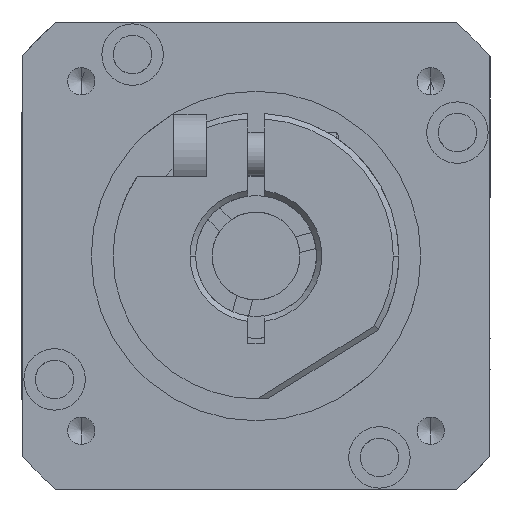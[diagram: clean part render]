
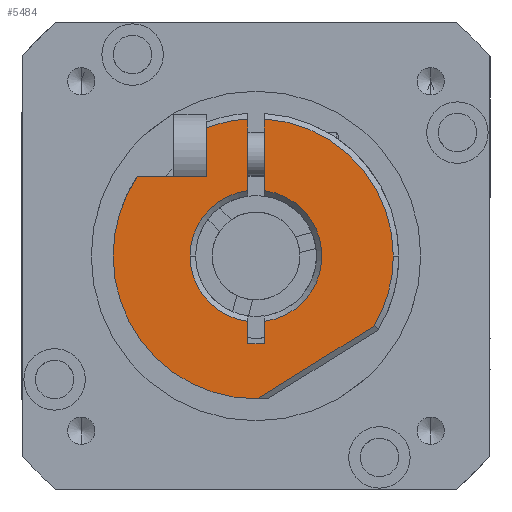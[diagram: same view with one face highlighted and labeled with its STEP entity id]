
A CAD part, left-side view. The second image highlights one B-rep face of the part: STEP entity #5484.
In plain terms, the highlighted planar face has unit normal (-1, 0, 0) as drawn and (0, -1, 0) by its records, which use the part's own axes.
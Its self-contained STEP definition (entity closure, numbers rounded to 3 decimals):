
#60 = AXIS2_PLACEMENT_3D ( 'NONE', #9894, #6820, #1125 ) ;
#64 = DIRECTION ( 'NONE',  ( 0., 1., 0. ) ) ;
#76 = CARTESIAN_POINT ( 'NONE',  ( 5.953, -4., -0.75 ) ) ;
#129 = AXIS2_PLACEMENT_3D ( 'NONE', #10169, #2962, #701 ) ;
#288 = ORIENTED_EDGE ( 'NONE', *, *, #1141, .T. ) ;
#450 = EDGE_CURVE ( 'NONE', #3196, #1188, #6763, .T. ) ;
#535 = VECTOR ( 'NONE', #4821, 1000. ) ;
#542 = DIRECTION ( 'NONE',  ( 0., 0., -1. ) ) ;
#701 = DIRECTION ( 'NONE',  ( -1., 0., 0. ) ) ;
#702 = CARTESIAN_POINT ( 'NONE',  ( 0., -4., -6. ) ) ;
#799 = ORIENTED_EDGE ( 'NONE', *, *, #9566, .T. ) ;
#832 = CARTESIAN_POINT ( 'NONE',  ( 8., -4., 0.75 ) ) ;
#838 = CARTESIAN_POINT ( 'NONE',  ( 0., -4., 12.5 ) ) ;
#880 = CARTESIAN_POINT ( 'NONE',  ( -7.25, -4., -4.5 ) ) ;
#900 = CARTESIAN_POINT ( 'NONE',  ( -11.662, -4., -4.5 ) ) ;
#911 = DIRECTION ( 'NONE',  ( 0., 1., 0. ) ) ;
#929 = EDGE_CURVE ( 'NONE', #5095, #3767, #6363, .T. ) ;
#954 = DIRECTION ( 'NONE',  ( 0., 0., -1. ) ) ;
#977 = CARTESIAN_POINT ( 'NONE',  ( 0., -4., 0. ) ) ;
#1055 = EDGE_CURVE ( 'NONE', #5299, #4211, #2579, .T. ) ;
#1125 = DIRECTION ( 'NONE',  ( 0., 0., 1. ) ) ;
#1141 = EDGE_CURVE ( 'NONE', #3767, #8123, #8998, .T. ) ;
#1188 = VERTEX_POINT ( 'NONE', #900 ) ;
#1278 = VERTEX_POINT ( 'NONE', #1776 ) ;
#1362 = DIRECTION ( 'NONE',  ( -1., 0., 0. ) ) ;
#1549 = CARTESIAN_POINT ( 'NONE',  ( 0., -4., 0. ) ) ;
#1583 = ORIENTED_EDGE ( 'NONE', *, *, #8146, .T. ) ;
#1604 = VECTOR ( 'NONE', #1362, 1000. ) ;
#1776 = CARTESIAN_POINT ( 'NONE',  ( -12.477, -4., 0.75 ) ) ;
#1787 = DIRECTION ( 'NONE',  ( 0., 0., -1. ) ) ;
#2099 = VECTOR ( 'NONE', #10154, 1000. ) ;
#2172 = ORIENTED_EDGE ( 'NONE', *, *, #6648, .T. ) ;
#2228 = AXIS2_PLACEMENT_3D ( 'NONE', #7211, #64, #5549 ) ;
#2255 = ORIENTED_EDGE ( 'NONE', *, *, #2908, .T. ) ;
#2579 = LINE ( 'NONE', #10365, #5209 ) ;
#2606 = LINE ( 'NONE', #10422, #7627 ) ;
#2630 = CARTESIAN_POINT ( 'NONE',  ( -5.953, -4., 0.75 ) ) ;
#2708 = VERTEX_POINT ( 'NONE', #7157 ) ;
#2780 = CARTESIAN_POINT ( 'NONE',  ( 0., -4., 0. ) ) ;
#2803 = VERTEX_POINT ( 'NONE', #838 ) ;
#2808 = AXIS2_PLACEMENT_3D ( 'NONE', #1549, #7159, #10375 ) ;
#2908 = EDGE_CURVE ( 'NONE', #4211, #2708, #6702, .T. ) ;
#2962 = DIRECTION ( 'NONE',  ( 0., -1., 0. ) ) ;
#3012 = DIRECTION ( 'NONE',  ( -1., 0., 0. ) ) ;
#3078 = LINE ( 'NONE', #10142, #7244 ) ;
#3135 = DIRECTION ( 'NONE',  ( -0.53, 0., 0.848 ) ) ;
#3189 = EDGE_CURVE ( 'NONE', #1188, #5299, #4039, .T. ) ;
#3196 = VERTEX_POINT ( 'NONE', #9668 ) ;
#3246 = VECTOR ( 'NONE', #3012, 1000. ) ;
#3281 = CARTESIAN_POINT ( 'NONE',  ( 0., -4., 0. ) ) ;
#3322 = AXIS2_PLACEMENT_3D ( 'NONE', #977, #911, #1787 ) ;
#3767 = VERTEX_POINT ( 'NONE', #76 ) ;
#3768 = DIRECTION ( 'NONE',  ( 0., -1., 0. ) ) ;
#3931 = DIRECTION ( 'NONE',  ( 0., 0., -1. ) ) ;
#3949 = DIRECTION ( 'NONE',  ( 1., 0., 0. ) ) ;
#3956 = CIRCLE ( 'NONE', #2808, 12.5 ) ;
#4039 = LINE ( 'NONE', #4857, #535 ) ;
#4053 = VERTEX_POINT ( 'NONE', #7518 ) ;
#4071 = ORIENTED_EDGE ( 'NONE', *, *, #9075, .T. ) ;
#4164 = VERTEX_POINT ( 'NONE', #832 ) ;
#4185 = DIRECTION ( 'NONE',  ( 0., 1., 0. ) ) ;
#4211 = VERTEX_POINT ( 'NONE', #9708 ) ;
#4528 = CARTESIAN_POINT ( 'NONE',  ( 8., -4., -0.75 ) ) ;
#4784 = EDGE_CURVE ( 'NONE', #8123, #7508, #8919, .T. ) ;
#4821 = DIRECTION ( 'NONE',  ( 1., 0., 0. ) ) ;
#4857 = CARTESIAN_POINT ( 'NONE',  ( 5.5, -4., -4.5 ) ) ;
#4922 = EDGE_CURVE ( 'NONE', #2708, #7449, #8535, .T. ) ;
#4966 = EDGE_LOOP ( 'NONE', ( #2172, #8205, #9685, #288, #5198, #7115, #10241, #5475, #6602, #2255, #6354, #1583, #7944, #799, #4071, #6165 ) ) ;
#4997 = CIRCLE ( 'NONE', #3322, 6. ) ;
#5095 = VERTEX_POINT ( 'NONE', #7126 ) ;
#5198 = ORIENTED_EDGE ( 'NONE', *, *, #4784, .T. ) ;
#5209 = VECTOR ( 'NONE', #3931, 1000. ) ;
#5260 = CARTESIAN_POINT ( 'NONE',  ( 5.5, -4., -0.75 ) ) ;
#5299 = VERTEX_POINT ( 'NONE', #880 ) ;
#5356 = EDGE_CURVE ( 'NONE', #9787, #7267, #4997, .T. ) ;
#5452 = DIRECTION ( 'NONE',  ( 0., 0., -1. ) ) ;
#5475 = ORIENTED_EDGE ( 'NONE', *, *, #3189, .T. ) ;
#5484 = ADVANCED_FACE ( 'NONE', ( #8653 ), #10269, .T. ) ;
#5522 = DIRECTION ( 'NONE',  ( 0., -1., 0. ) ) ;
#5549 = DIRECTION ( 'NONE',  ( 0., 0., -1. ) ) ;
#5620 = AXIS2_PLACEMENT_3D ( 'NONE', #7084, #5522, #5452 ) ;
#5990 = LINE ( 'NONE', #4528, #2099 ) ;
#6017 = LINE ( 'NONE', #8764, #6914 ) ;
#6133 = DIRECTION ( 'NONE',  ( 1., 0., 0. ) ) ;
#6165 = ORIENTED_EDGE ( 'NONE', *, *, #5356, .T. ) ;
#6249 = CARTESIAN_POINT ( 'NONE',  ( 5.5, -4., -0.75 ) ) ;
#6287 = EDGE_CURVE ( 'NONE', #4053, #2803, #7153, .T. ) ;
#6354 = ORIENTED_EDGE ( 'NONE', *, *, #4922, .T. ) ;
#6363 = LINE ( 'NONE', #5260, #1604 ) ;
#6602 = ORIENTED_EDGE ( 'NONE', *, *, #1055, .T. ) ;
#6648 = EDGE_CURVE ( 'NONE', #7267, #4164, #6017, .T. ) ;
#6702 = CIRCLE ( 'NONE', #8023, 13. ) ;
#6763 = CIRCLE ( 'NONE', #129, 12.5 ) ;
#6820 = DIRECTION ( 'NONE',  ( 0., -1., 0. ) ) ;
#6828 = CARTESIAN_POINT ( 'NONE',  ( 5.953, -4., 0.75 ) ) ;
#6914 = VECTOR ( 'NONE', #3949, 1000. ) ;
#7084 = CARTESIAN_POINT ( 'NONE',  ( 5.5, -4., 0. ) ) ;
#7115 = ORIENTED_EDGE ( 'NONE', *, *, #7431, .T. ) ;
#7126 = CARTESIAN_POINT ( 'NONE',  ( 8., -4., -0.75 ) ) ;
#7153 = CIRCLE ( 'NONE', #60, 12.5 ) ;
#7157 = CARTESIAN_POINT ( 'NONE',  ( 0., -4., -13. ) ) ;
#7159 = DIRECTION ( 'NONE',  ( 0., -1., 0. ) ) ;
#7211 = CARTESIAN_POINT ( 'NONE',  ( 0., -4., 0. ) ) ;
#7244 = VECTOR ( 'NONE', #6133, 1000. ) ;
#7267 = VERTEX_POINT ( 'NONE', #6828 ) ;
#7369 = AXIS2_PLACEMENT_3D ( 'NONE', #3281, #4185, #954 ) ;
#7431 = EDGE_CURVE ( 'NONE', #7508, #3196, #9414, .T. ) ;
#7449 = VERTEX_POINT ( 'NONE', #8591 ) ;
#7508 = VERTEX_POINT ( 'NONE', #7860 ) ;
#7518 = CARTESIAN_POINT ( 'NONE',  ( 6.367, -4., 10.757 ) ) ;
#7627 = VECTOR ( 'NONE', #3135, 1000. ) ;
#7860 = CARTESIAN_POINT ( 'NONE',  ( -5.953, -4., -0.75 ) ) ;
#7944 = ORIENTED_EDGE ( 'NONE', *, *, #6287, .T. ) ;
#8023 = AXIS2_PLACEMENT_3D ( 'NONE', #10232, #3768, #542 ) ;
#8123 = VERTEX_POINT ( 'NONE', #702 ) ;
#8146 = EDGE_CURVE ( 'NONE', #7449, #4053, #2606, .T. ) ;
#8205 = ORIENTED_EDGE ( 'NONE', *, *, #8521, .T. ) ;
#8521 = EDGE_CURVE ( 'NONE', #4164, #5095, #5990, .T. ) ;
#8535 = CIRCLE ( 'NONE', #10057, 13. ) ;
#8591 = CARTESIAN_POINT ( 'NONE',  ( 12.999, -4., 0.144 ) ) ;
#8653 = FACE_OUTER_BOUND ( 'NONE', #4966, .T. ) ;
#8764 = CARTESIAN_POINT ( 'NONE',  ( 5.5, -4., 0.75 ) ) ;
#8919 = CIRCLE ( 'NONE', #7369, 6. ) ;
#8998 = CIRCLE ( 'NONE', #2228, 6. ) ;
#9075 = EDGE_CURVE ( 'NONE', #1278, #9787, #3078, .T. ) ;
#9299 = DIRECTION ( 'NONE',  ( 0., -1., 0. ) ) ;
#9414 = LINE ( 'NONE', #6249, #3246 ) ;
#9566 = EDGE_CURVE ( 'NONE', #2803, #1278, #3956, .T. ) ;
#9668 = CARTESIAN_POINT ( 'NONE',  ( -12.477, -4., -0.75 ) ) ;
#9685 = ORIENTED_EDGE ( 'NONE', *, *, #929, .T. ) ;
#9708 = CARTESIAN_POINT ( 'NONE',  ( -7.25, -4., -10.791 ) ) ;
#9787 = VERTEX_POINT ( 'NONE', #2630 ) ;
#9894 = CARTESIAN_POINT ( 'NONE',  ( 0., -4., 0. ) ) ;
#10057 = AXIS2_PLACEMENT_3D ( 'NONE', #2780, #9299, #10063 ) ;
#10063 = DIRECTION ( 'NONE',  ( 0., 0., -1. ) ) ;
#10142 = CARTESIAN_POINT ( 'NONE',  ( 5.5, -4., 0.75 ) ) ;
#10154 = DIRECTION ( 'NONE',  ( 0., 0., -1. ) ) ;
#10169 = CARTESIAN_POINT ( 'NONE',  ( 0., -4., 0. ) ) ;
#10232 = CARTESIAN_POINT ( 'NONE',  ( 0., -4., 0. ) ) ;
#10241 = ORIENTED_EDGE ( 'NONE', *, *, #450, .T. ) ;
#10269 = PLANE ( 'NONE',  #5620 ) ;
#10365 = CARTESIAN_POINT ( 'NONE',  ( -7.25, -4., 0. ) ) ;
#10375 = DIRECTION ( 'NONE',  ( 0., 0., 1. ) ) ;
#10422 = CARTESIAN_POINT ( 'NONE',  ( 12.999, -4., 0.144 ) ) ;
